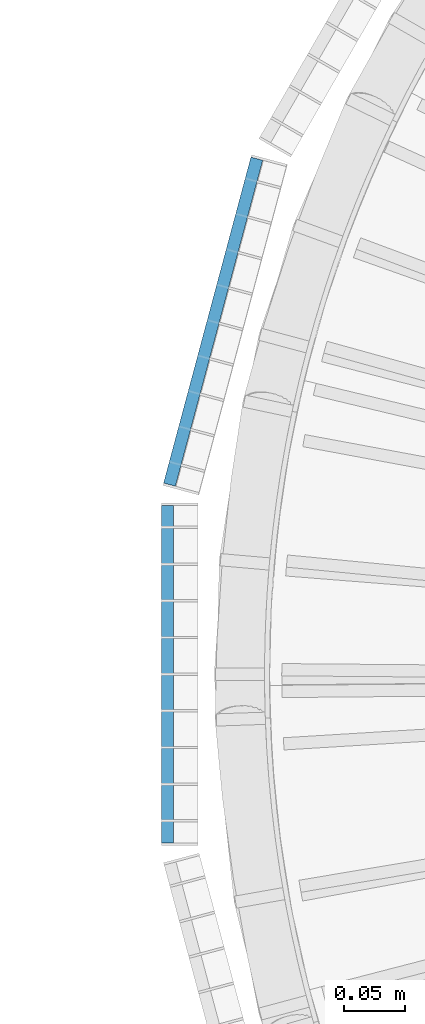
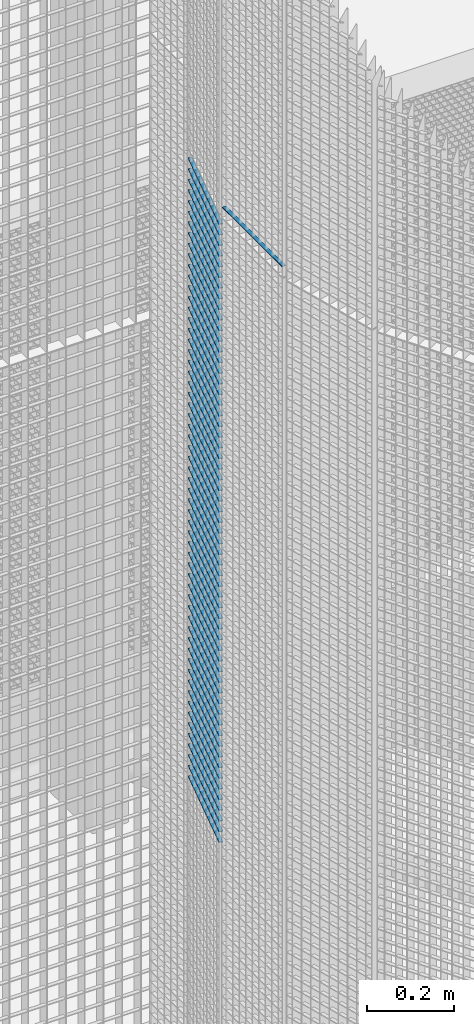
# One storey, part 190 of 1148: 60 beams, 2 elements without a shape of their own.
"""IFC2X3 building model written with IfcOpenShell, lengths in millimetres."""

from ifc_helpers import new_model, si_unit, frame, origin_with_axes, origin_2d_with_axis, place, context, subcontext, project, spatial, rectangle, extrude, material, type_object, element, aggregate, save


model = new_model("IFC2X3")

# Units and contexts
model_context = context("Model", 3, precision=1e-05, world=origin_with_axes())
body_context = subcontext(model_context, "Body", "Model", "MODEL_VIEW")
ifc_project = project(units=[si_unit("LENGTHUNIT", "METRE", prefix="MILLI"), si_unit("AREAUNIT", "SQUARE_METRE"), si_unit("VOLUMEUNIT", "CUBIC_METRE"), si_unit("MASSUNIT", "GRAM", prefix="KILO"), si_unit("TIMEUNIT", "SECOND"), si_unit("PLANEANGLEUNIT", "RADIAN"), si_unit("SOLIDANGLEUNIT", "STERADIAN"), si_unit("THERMODYNAMICTEMPERATUREUNIT", "DEGREE_CELSIUS"), si_unit("LUMINOUSINTENSITYUNIT", "LUMEN")], contexts=[model_context])

# Site, building, storey
site_placement = place(None, origin_with_axes())
site = spatial("IfcSite", under=ifc_project, at=site_placement, Name="Undefined", CompositionType="ELEMENT")
building_placement = place(site_placement, origin_with_axes())
building = spatial("IfcBuilding", under=site, at=building_placement, Name="Undefined", CompositionType="ELEMENT")
storey_placement = place(building_placement, origin_with_axes())
storey = spatial("IfcBuildingStorey", under=building, at=storey_placement, Name="Undefined", CompositionType="ELEMENT", Elevation=0.0)

# Assembly, beam
assembly_1_placement = place(storey_placement, origin_with_axes())
assembly_1 = element("IfcElementAssembly", 1, at=assembly_1_placement, inside=storey, Name="BORDURE", AssemblyPlace="NOTDEFINED", PredefinedType="NOTDEFINED")
ifc_material = material(Name="STEEL/S235JR")
beam_type = type_object("IfcBeamType", Name="PL2*10", PredefinedType="NOTDEFINED")
beam_1_placement = place(assembly_1_placement, frame((-1113.47999999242, 137.99600337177, 12030.0), z_axis=(-1.0, 0.0, 0.0), x_axis=(0.0, -1.0, 0.0)))
beam_1 = element("IfcBeam", 2, at=beam_1_placement, type_object=beam_type, material=ifc_material, Name="ENTRETOISE", context=body_context, shape_type="SweptSolid", body=[
    extrude(rectangle(XDim=2.0, YDim=10.0, at=origin_2d_with_axis()), frame((275.999999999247, 9.09494701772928e-13, 1.53210777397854e-14), z_axis=(-1.0, 0.0, 0.0), x_axis=(0.0, -1.0, 0.0)), (0.0, 0.0, 1.0), 276.0),
])
aggregate(assembly_1, [beam_1])

# Assembly, beams
assembly_2_placement = place(storey_placement, origin_with_axes())
assembly_2 = element("IfcElementAssembly", 3, at=assembly_2_placement, inside=storey, Name="BORDURE", AssemblyPlace="NOTDEFINED", PredefinedType="NOTDEFINED")
beam_2_placement = place(assembly_2_placement, frame((-1040.30888419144, 421.61803829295, 11970.0), z_axis=(-0.965925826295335, 0.258819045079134, 0.0), x_axis=(-0.258819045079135, -0.965925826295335, 0.0)))
beam_2 = element("IfcBeam", 4, at=beam_2_placement, type_object=beam_type, material=ifc_material, Name="ENTRETOISE", context=body_context, shape_type="SweptSolid", body=[
    extrude(rectangle(XDim=2.0, YDim=10.0, at=origin_2d_with_axis()), frame((275.999999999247, 9.09494701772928e-13, 1.53210777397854e-14), z_axis=(-1.0, 0.0, 0.0), x_axis=(0.0, -1.0, 0.0)), (0.0, 0.0, 1.0), 276.0),
])
beam_3_placement = place(assembly_2_placement, frame((-1040.30888419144, 421.61803829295, 11940.0), z_axis=(-0.965925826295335, 0.258819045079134, 0.0), x_axis=(-0.258819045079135, -0.965925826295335, 0.0)))
beam_3 = element("IfcBeam", 5, at=beam_3_placement, type_object=beam_type, material=ifc_material, Name="ENTRETOISE", context=body_context, shape_type="SweptSolid", body=[
    extrude(rectangle(XDim=2.0, YDim=10.0, at=origin_2d_with_axis()), frame((275.999999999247, 9.09494701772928e-13, 1.53210777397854e-14), z_axis=(-1.0, 0.0, 0.0), x_axis=(0.0, -1.0, 0.0)), (0.0, 0.0, 1.0), 276.0),
])
beam_4_placement = place(assembly_2_placement, frame((-1040.30888419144, 421.61803829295, 11910.0), z_axis=(-0.965925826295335, 0.258819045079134, 0.0), x_axis=(-0.258819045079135, -0.965925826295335, 0.0)))
beam_4 = element("IfcBeam", 6, at=beam_4_placement, type_object=beam_type, material=ifc_material, Name="ENTRETOISE", context=body_context, shape_type="SweptSolid", body=[
    extrude(rectangle(XDim=2.0, YDim=10.0, at=origin_2d_with_axis()), frame((275.999999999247, 9.09494701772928e-13, 1.53210777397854e-14), z_axis=(-1.0, 0.0, 0.0), x_axis=(0.0, -1.0, 0.0)), (0.0, 0.0, 1.0), 276.0),
])
beam_5_placement = place(assembly_2_placement, frame((-1040.30888419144, 421.61803829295, 11880.0), z_axis=(-0.965925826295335, 0.258819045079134, 0.0), x_axis=(-0.258819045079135, -0.965925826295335, 0.0)))
beam_5 = element("IfcBeam", 7, at=beam_5_placement, type_object=beam_type, material=ifc_material, Name="ENTRETOISE", context=body_context, shape_type="SweptSolid", body=[
    extrude(rectangle(XDim=2.0, YDim=10.0, at=origin_2d_with_axis()), frame((275.999999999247, 9.09494701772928e-13, 1.53210777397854e-14), z_axis=(-1.0, 0.0, 0.0), x_axis=(0.0, -1.0, 0.0)), (0.0, 0.0, 1.0), 276.0),
])
beam_6_placement = place(assembly_2_placement, frame((-1040.30888419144, 421.61803829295, 11850.0), z_axis=(-0.965925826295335, 0.258819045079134, 0.0), x_axis=(-0.258819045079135, -0.965925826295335, 0.0)))
beam_6 = element("IfcBeam", 8, at=beam_6_placement, type_object=beam_type, material=ifc_material, Name="ENTRETOISE", context=body_context, shape_type="SweptSolid", body=[
    extrude(rectangle(XDim=2.0, YDim=10.0, at=origin_2d_with_axis()), frame((275.999999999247, 9.09494701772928e-13, 1.53210777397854e-14), z_axis=(-1.0, 0.0, 0.0), x_axis=(0.0, -1.0, 0.0)), (0.0, 0.0, 1.0), 276.0),
])
beam_7_placement = place(assembly_2_placement, frame((-1040.30888419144, 421.61803829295, 11820.0), z_axis=(-0.965925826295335, 0.258819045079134, 0.0), x_axis=(-0.258819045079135, -0.965925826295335, 0.0)))
beam_7 = element("IfcBeam", 9, at=beam_7_placement, type_object=beam_type, material=ifc_material, Name="ENTRETOISE", context=body_context, shape_type="SweptSolid", body=[
    extrude(rectangle(XDim=2.0, YDim=10.0, at=origin_2d_with_axis()), frame((275.999999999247, 9.09494701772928e-13, 1.53210777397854e-14), z_axis=(-1.0, 0.0, 0.0), x_axis=(0.0, -1.0, 0.0)), (0.0, 0.0, 1.0), 276.0),
])
beam_8_placement = place(assembly_2_placement, frame((-1040.30888419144, 421.61803829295, 11790.0), z_axis=(-0.965925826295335, 0.258819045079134, 0.0), x_axis=(-0.258819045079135, -0.965925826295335, 0.0)))
beam_8 = element("IfcBeam", 10, at=beam_8_placement, type_object=beam_type, material=ifc_material, Name="ENTRETOISE", context=body_context, shape_type="SweptSolid", body=[
    extrude(rectangle(XDim=2.0, YDim=10.0, at=origin_2d_with_axis()), frame((275.999999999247, 9.09494701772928e-13, 1.53210777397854e-14), z_axis=(-1.0, 0.0, 0.0), x_axis=(0.0, -1.0, 0.0)), (0.0, 0.0, 1.0), 276.0),
])
beam_9_placement = place(assembly_2_placement, frame((-1040.30888419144, 421.61803829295, 11760.0), z_axis=(-0.965925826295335, 0.258819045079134, 0.0), x_axis=(-0.258819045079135, -0.965925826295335, 0.0)))
beam_9 = element("IfcBeam", 11, at=beam_9_placement, type_object=beam_type, material=ifc_material, Name="ENTRETOISE", context=body_context, shape_type="SweptSolid", body=[
    extrude(rectangle(XDim=2.0, YDim=10.0, at=origin_2d_with_axis()), frame((275.999999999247, 9.09494701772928e-13, 1.53210777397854e-14), z_axis=(-1.0, 0.0, 0.0), x_axis=(0.0, -1.0, 0.0)), (0.0, 0.0, 1.0), 276.0),
])
beam_10_placement = place(assembly_2_placement, frame((-1040.30888419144, 421.61803829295, 11730.0), z_axis=(-0.965925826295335, 0.258819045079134, 0.0), x_axis=(-0.258819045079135, -0.965925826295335, 0.0)))
beam_10 = element("IfcBeam", 12, at=beam_10_placement, type_object=beam_type, material=ifc_material, Name="ENTRETOISE", context=body_context, shape_type="SweptSolid", body=[
    extrude(rectangle(XDim=2.0, YDim=10.0, at=origin_2d_with_axis()), frame((275.999999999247, 9.09494701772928e-13, 1.53210777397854e-14), z_axis=(-1.0, 0.0, 0.0), x_axis=(0.0, -1.0, 0.0)), (0.0, 0.0, 1.0), 276.0),
])
beam_11_placement = place(assembly_2_placement, frame((-1040.30888419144, 421.618038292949, 11700.0), z_axis=(-0.965925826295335, 0.258819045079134, 0.0), x_axis=(-0.258819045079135, -0.965925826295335, 0.0)))
beam_11 = element("IfcBeam", 13, at=beam_11_placement, type_object=beam_type, material=ifc_material, Name="ENTRETOISE", context=body_context, shape_type="SweptSolid", body=[
    extrude(rectangle(XDim=2.0, YDim=10.0, at=origin_2d_with_axis()), frame((275.999999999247, 9.09494701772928e-13, 1.53210777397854e-14), z_axis=(-1.0, 0.0, 0.0), x_axis=(0.0, -1.0, 0.0)), (0.0, 0.0, 1.0), 276.0),
])
beam_12_placement = place(assembly_2_placement, frame((-1040.30888419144, 421.618038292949, 11670.0), z_axis=(-0.965925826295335, 0.258819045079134, 0.0), x_axis=(-0.258819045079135, -0.965925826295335, 0.0)))
beam_12 = element("IfcBeam", 14, at=beam_12_placement, type_object=beam_type, material=ifc_material, Name="ENTRETOISE", context=body_context, shape_type="SweptSolid", body=[
    extrude(rectangle(XDim=2.0, YDim=10.0, at=origin_2d_with_axis()), frame((275.999999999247, 9.09494701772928e-13, 1.53210777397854e-14), z_axis=(-1.0, 0.0, 0.0), x_axis=(0.0, -1.0, 0.0)), (0.0, 0.0, 1.0), 276.0),
])
beam_13_placement = place(assembly_2_placement, frame((-1040.30888419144, 421.618038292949, 11640.0), z_axis=(-0.965925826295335, 0.258819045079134, 0.0), x_axis=(-0.258819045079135, -0.965925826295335, 0.0)))
beam_13 = element("IfcBeam", 15, at=beam_13_placement, type_object=beam_type, material=ifc_material, Name="ENTRETOISE", context=body_context, shape_type="SweptSolid", body=[
    extrude(rectangle(XDim=2.0, YDim=10.0, at=origin_2d_with_axis()), frame((275.999999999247, 9.09494701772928e-13, 1.53210777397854e-14), z_axis=(-1.0, 0.0, 0.0), x_axis=(0.0, -1.0, 0.0)), (0.0, 0.0, 1.0), 276.0),
])
beam_14_placement = place(assembly_2_placement, frame((-1040.30888419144, 421.618038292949, 11610.0), z_axis=(-0.965925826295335, 0.258819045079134, 0.0), x_axis=(-0.258819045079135, -0.965925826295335, 0.0)))
beam_14 = element("IfcBeam", 16, at=beam_14_placement, type_object=beam_type, material=ifc_material, Name="ENTRETOISE", context=body_context, shape_type="SweptSolid", body=[
    extrude(rectangle(XDim=2.0, YDim=10.0, at=origin_2d_with_axis()), frame((275.999999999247, 9.09494701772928e-13, 1.53210777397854e-14), z_axis=(-1.0, 0.0, 0.0), x_axis=(0.0, -1.0, 0.0)), (0.0, 0.0, 1.0), 276.0),
])
beam_15_placement = place(assembly_2_placement, frame((-1040.30888419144, 421.618038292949, 11580.0), z_axis=(-0.965925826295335, 0.258819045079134, 0.0), x_axis=(-0.258819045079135, -0.965925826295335, 0.0)))
beam_15 = element("IfcBeam", 17, at=beam_15_placement, type_object=beam_type, material=ifc_material, Name="ENTRETOISE", context=body_context, shape_type="SweptSolid", body=[
    extrude(rectangle(XDim=2.0, YDim=10.0, at=origin_2d_with_axis()), frame((275.999999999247, 9.09494701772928e-13, 1.53210777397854e-14), z_axis=(-1.0, 0.0, 0.0), x_axis=(0.0, -1.0, 0.0)), (0.0, 0.0, 1.0), 276.0),
])
beam_16_placement = place(assembly_2_placement, frame((-1040.30888419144, 421.618038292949, 11550.0), z_axis=(-0.965925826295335, 0.258819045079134, 0.0), x_axis=(-0.258819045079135, -0.965925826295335, 0.0)))
beam_16 = element("IfcBeam", 18, at=beam_16_placement, type_object=beam_type, material=ifc_material, Name="ENTRETOISE", context=body_context, shape_type="SweptSolid", body=[
    extrude(rectangle(XDim=2.0, YDim=10.0, at=origin_2d_with_axis()), frame((275.999999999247, 9.09494701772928e-13, 1.53210777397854e-14), z_axis=(-1.0, 0.0, 0.0), x_axis=(0.0, -1.0, 0.0)), (0.0, 0.0, 1.0), 276.0),
])
beam_17_placement = place(assembly_2_placement, frame((-1040.30888419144, 421.618038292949, 11520.0), z_axis=(-0.965925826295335, 0.258819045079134, 0.0), x_axis=(-0.258819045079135, -0.965925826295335, 0.0)))
beam_17 = element("IfcBeam", 19, at=beam_17_placement, type_object=beam_type, material=ifc_material, Name="ENTRETOISE", context=body_context, shape_type="SweptSolid", body=[
    extrude(rectangle(XDim=2.0, YDim=10.0, at=origin_2d_with_axis()), frame((275.999999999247, 9.09494701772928e-13, 1.53210777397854e-14), z_axis=(-1.0, 0.0, 0.0), x_axis=(0.0, -1.0, 0.0)), (0.0, 0.0, 1.0), 276.0),
])
beam_18_placement = place(assembly_2_placement, frame((-1040.30888419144, 421.618038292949, 11490.0), z_axis=(-0.965925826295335, 0.258819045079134, 0.0), x_axis=(-0.258819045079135, -0.965925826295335, 0.0)))
beam_18 = element("IfcBeam", 20, at=beam_18_placement, type_object=beam_type, material=ifc_material, Name="ENTRETOISE", context=body_context, shape_type="SweptSolid", body=[
    extrude(rectangle(XDim=2.0, YDim=10.0, at=origin_2d_with_axis()), frame((275.999999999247, 9.09494701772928e-13, 1.53210777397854e-14), z_axis=(-1.0, 0.0, 0.0), x_axis=(0.0, -1.0, 0.0)), (0.0, 0.0, 1.0), 276.0),
])
beam_19_placement = place(assembly_2_placement, frame((-1040.30888419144, 421.618038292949, 11460.0), z_axis=(-0.965925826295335, 0.258819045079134, 0.0), x_axis=(-0.258819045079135, -0.965925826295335, 0.0)))
beam_19 = element("IfcBeam", 21, at=beam_19_placement, type_object=beam_type, material=ifc_material, Name="ENTRETOISE", context=body_context, shape_type="SweptSolid", body=[
    extrude(rectangle(XDim=2.0, YDim=10.0, at=origin_2d_with_axis()), frame((275.999999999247, 9.09494701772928e-13, 1.53210777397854e-14), z_axis=(-1.0, 0.0, 0.0), x_axis=(0.0, -1.0, 0.0)), (0.0, 0.0, 1.0), 276.0),
])
beam_20_placement = place(assembly_2_placement, frame((-1040.30888419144, 421.618038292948, 11430.0), z_axis=(-0.965925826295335, 0.258819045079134, 0.0), x_axis=(-0.258819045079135, -0.965925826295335, 0.0)))
beam_20 = element("IfcBeam", 22, at=beam_20_placement, type_object=beam_type, material=ifc_material, Name="ENTRETOISE", context=body_context, shape_type="SweptSolid", body=[
    extrude(rectangle(XDim=2.0, YDim=10.0, at=origin_2d_with_axis()), frame((275.999999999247, 9.09494701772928e-13, 1.53210777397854e-14), z_axis=(-1.0, 0.0, 0.0), x_axis=(0.0, -1.0, 0.0)), (0.0, 0.0, 1.0), 276.0),
])
beam_21_placement = place(assembly_2_placement, frame((-1040.30888419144, 421.618038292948, 11400.0), z_axis=(-0.965925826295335, 0.258819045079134, 0.0), x_axis=(-0.258819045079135, -0.965925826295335, 0.0)))
beam_21 = element("IfcBeam", 23, at=beam_21_placement, type_object=beam_type, material=ifc_material, Name="ENTRETOISE", context=body_context, shape_type="SweptSolid", body=[
    extrude(rectangle(XDim=2.0, YDim=10.0, at=origin_2d_with_axis()), frame((275.999999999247, 9.09494701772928e-13, 1.53210777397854e-14), z_axis=(-1.0, 0.0, 0.0), x_axis=(0.0, -1.0, 0.0)), (0.0, 0.0, 1.0), 276.0),
])
beam_22_placement = place(assembly_2_placement, frame((-1040.30888419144, 421.618038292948, 11370.0), z_axis=(-0.965925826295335, 0.258819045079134, 0.0), x_axis=(-0.258819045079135, -0.965925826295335, 0.0)))
beam_22 = element("IfcBeam", 24, at=beam_22_placement, type_object=beam_type, material=ifc_material, Name="ENTRETOISE", context=body_context, shape_type="SweptSolid", body=[
    extrude(rectangle(XDim=2.0, YDim=10.0, at=origin_2d_with_axis()), frame((275.999999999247, 9.09494701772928e-13, 1.53210777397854e-14), z_axis=(-1.0, 0.0, 0.0), x_axis=(0.0, -1.0, 0.0)), (0.0, 0.0, 1.0), 276.0),
])
beam_23_placement = place(assembly_2_placement, frame((-1040.30888419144, 421.618038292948, 11340.0), z_axis=(-0.965925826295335, 0.258819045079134, 0.0), x_axis=(-0.258819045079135, -0.965925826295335, 0.0)))
beam_23 = element("IfcBeam", 25, at=beam_23_placement, type_object=beam_type, material=ifc_material, Name="ENTRETOISE", context=body_context, shape_type="SweptSolid", body=[
    extrude(rectangle(XDim=2.0, YDim=10.0, at=origin_2d_with_axis()), frame((275.999999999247, 9.09494701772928e-13, 1.53210777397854e-14), z_axis=(-1.0, 0.0, 0.0), x_axis=(0.0, -1.0, 0.0)), (0.0, 0.0, 1.0), 276.0),
])
beam_24_placement = place(assembly_2_placement, frame((-1040.30888419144, 421.618038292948, 11310.0), z_axis=(-0.965925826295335, 0.258819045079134, 0.0), x_axis=(-0.258819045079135, -0.965925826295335, 0.0)))
beam_24 = element("IfcBeam", 26, at=beam_24_placement, type_object=beam_type, material=ifc_material, Name="ENTRETOISE", context=body_context, shape_type="SweptSolid", body=[
    extrude(rectangle(XDim=2.0, YDim=10.0, at=origin_2d_with_axis()), frame((275.999999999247, 9.09494701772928e-13, 1.53210777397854e-14), z_axis=(-1.0, 0.0, 0.0), x_axis=(0.0, -1.0, 0.0)), (0.0, 0.0, 1.0), 276.0),
])
beam_25_placement = place(assembly_2_placement, frame((-1040.30888419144, 421.618038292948, 11280.0), z_axis=(-0.965925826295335, 0.258819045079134, 0.0), x_axis=(-0.258819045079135, -0.965925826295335, 0.0)))
beam_25 = element("IfcBeam", 27, at=beam_25_placement, type_object=beam_type, material=ifc_material, Name="ENTRETOISE", context=body_context, shape_type="SweptSolid", body=[
    extrude(rectangle(XDim=2.0, YDim=10.0, at=origin_2d_with_axis()), frame((275.999999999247, 9.09494701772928e-13, 1.53210777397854e-14), z_axis=(-1.0, 0.0, 0.0), x_axis=(0.0, -1.0, 0.0)), (0.0, 0.0, 1.0), 276.0),
])
beam_26_placement = place(assembly_2_placement, frame((-1040.30888419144, 421.618038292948, 11250.0), z_axis=(-0.965925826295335, 0.258819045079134, 0.0), x_axis=(-0.258819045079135, -0.965925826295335, 0.0)))
beam_26 = element("IfcBeam", 28, at=beam_26_placement, type_object=beam_type, material=ifc_material, Name="ENTRETOISE", context=body_context, shape_type="SweptSolid", body=[
    extrude(rectangle(XDim=2.0, YDim=10.0, at=origin_2d_with_axis()), frame((275.999999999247, 9.09494701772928e-13, 1.53210777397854e-14), z_axis=(-1.0, 0.0, 0.0), x_axis=(0.0, -1.0, 0.0)), (0.0, 0.0, 1.0), 276.0),
])
beam_27_placement = place(assembly_2_placement, frame((-1040.30888419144, 421.618038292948, 11220.0), z_axis=(-0.965925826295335, 0.258819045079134, 0.0), x_axis=(-0.258819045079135, -0.965925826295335, 0.0)))
beam_27 = element("IfcBeam", 29, at=beam_27_placement, type_object=beam_type, material=ifc_material, Name="ENTRETOISE", context=body_context, shape_type="SweptSolid", body=[
    extrude(rectangle(XDim=2.0, YDim=10.0, at=origin_2d_with_axis()), frame((275.999999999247, 9.09494701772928e-13, 1.53210777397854e-14), z_axis=(-1.0, 0.0, 0.0), x_axis=(0.0, -1.0, 0.0)), (0.0, 0.0, 1.0), 276.0),
])
beam_28_placement = place(assembly_2_placement, frame((-1040.30888419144, 421.618038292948, 11190.0), z_axis=(-0.965925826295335, 0.258819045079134, 0.0), x_axis=(-0.258819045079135, -0.965925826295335, 0.0)))
beam_28 = element("IfcBeam", 30, at=beam_28_placement, type_object=beam_type, material=ifc_material, Name="ENTRETOISE", context=body_context, shape_type="SweptSolid", body=[
    extrude(rectangle(XDim=2.0, YDim=10.0, at=origin_2d_with_axis()), frame((275.999999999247, 9.09494701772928e-13, 1.53210777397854e-14), z_axis=(-1.0, 0.0, 0.0), x_axis=(0.0, -1.0, 0.0)), (0.0, 0.0, 1.0), 276.0),
])
beam_29_placement = place(assembly_2_placement, frame((-1040.30888419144, 421.618038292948, 11160.0), z_axis=(-0.965925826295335, 0.258819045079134, 0.0), x_axis=(-0.258819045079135, -0.965925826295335, 0.0)))
beam_29 = element("IfcBeam", 31, at=beam_29_placement, type_object=beam_type, material=ifc_material, Name="ENTRETOISE", context=body_context, shape_type="SweptSolid", body=[
    extrude(rectangle(XDim=2.0, YDim=10.0, at=origin_2d_with_axis()), frame((275.999999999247, 9.09494701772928e-13, 1.53210777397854e-14), z_axis=(-1.0, 0.0, 0.0), x_axis=(0.0, -1.0, 0.0)), (0.0, 0.0, 1.0), 276.0),
])
beam_30_placement = place(assembly_2_placement, frame((-1040.30888419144, 421.618038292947, 11130.0), z_axis=(-0.965925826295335, 0.258819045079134, 0.0), x_axis=(-0.258819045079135, -0.965925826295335, 0.0)))
beam_30 = element("IfcBeam", 32, at=beam_30_placement, type_object=beam_type, material=ifc_material, Name="ENTRETOISE", context=body_context, shape_type="SweptSolid", body=[
    extrude(rectangle(XDim=2.0, YDim=10.0, at=origin_2d_with_axis()), frame((275.999999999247, 9.09494701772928e-13, 1.53210777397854e-14), z_axis=(-1.0, 0.0, 0.0), x_axis=(0.0, -1.0, 0.0)), (0.0, 0.0, 1.0), 276.0),
])
beam_31_placement = place(assembly_2_placement, frame((-1040.30888419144, 421.618038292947, 11100.0), z_axis=(-0.965925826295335, 0.258819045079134, 0.0), x_axis=(-0.258819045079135, -0.965925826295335, 0.0)))
beam_31 = element("IfcBeam", 33, at=beam_31_placement, type_object=beam_type, material=ifc_material, Name="ENTRETOISE", context=body_context, shape_type="SweptSolid", body=[
    extrude(rectangle(XDim=2.0, YDim=10.0, at=origin_2d_with_axis()), frame((275.999999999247, 9.09494701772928e-13, 1.53210777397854e-14), z_axis=(-1.0, 0.0, 0.0), x_axis=(0.0, -1.0, 0.0)), (0.0, 0.0, 1.0), 276.0),
])
beam_32_placement = place(assembly_2_placement, frame((-1040.30888419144, 421.618038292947, 11070.0), z_axis=(-0.965925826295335, 0.258819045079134, 0.0), x_axis=(-0.258819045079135, -0.965925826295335, 0.0)))
beam_32 = element("IfcBeam", 34, at=beam_32_placement, type_object=beam_type, material=ifc_material, Name="ENTRETOISE", context=body_context, shape_type="SweptSolid", body=[
    extrude(rectangle(XDim=2.0, YDim=10.0, at=origin_2d_with_axis()), frame((275.999999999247, 9.09494701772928e-13, 1.53210777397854e-14), z_axis=(-1.0, 0.0, 0.0), x_axis=(0.0, -1.0, 0.0)), (0.0, 0.0, 1.0), 276.0),
])
beam_33_placement = place(assembly_2_placement, frame((-1040.30888419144, 421.618038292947, 11040.0), z_axis=(-0.965925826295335, 0.258819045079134, 0.0), x_axis=(-0.258819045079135, -0.965925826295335, 0.0)))
beam_33 = element("IfcBeam", 35, at=beam_33_placement, type_object=beam_type, material=ifc_material, Name="ENTRETOISE", context=body_context, shape_type="SweptSolid", body=[
    extrude(rectangle(XDim=2.0, YDim=10.0, at=origin_2d_with_axis()), frame((275.999999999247, 9.09494701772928e-13, 1.53210777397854e-14), z_axis=(-1.0, 0.0, 0.0), x_axis=(0.0, -1.0, 0.0)), (0.0, 0.0, 1.0), 276.0),
])
beam_34_placement = place(assembly_2_placement, frame((-1040.30888419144, 421.618038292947, 11010.0), z_axis=(-0.965925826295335, 0.258819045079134, 0.0), x_axis=(-0.258819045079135, -0.965925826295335, 0.0)))
beam_34 = element("IfcBeam", 36, at=beam_34_placement, type_object=beam_type, material=ifc_material, Name="ENTRETOISE", context=body_context, shape_type="SweptSolid", body=[
    extrude(rectangle(XDim=2.0, YDim=10.0, at=origin_2d_with_axis()), frame((275.999999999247, 9.09494701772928e-13, 1.53210777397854e-14), z_axis=(-1.0, 0.0, 0.0), x_axis=(0.0, -1.0, 0.0)), (0.0, 0.0, 1.0), 276.0),
])
beam_35_placement = place(assembly_2_placement, frame((-1040.30888419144, 421.618038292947, 10980.0), z_axis=(-0.965925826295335, 0.258819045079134, 0.0), x_axis=(-0.258819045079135, -0.965925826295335, 0.0)))
beam_35 = element("IfcBeam", 37, at=beam_35_placement, type_object=beam_type, material=ifc_material, Name="ENTRETOISE", context=body_context, shape_type="SweptSolid", body=[
    extrude(rectangle(XDim=2.0, YDim=10.0, at=origin_2d_with_axis()), frame((275.999999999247, 9.09494701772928e-13, 1.53210777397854e-14), z_axis=(-1.0, 0.0, 0.0), x_axis=(0.0, -1.0, 0.0)), (0.0, 0.0, 1.0), 276.0),
])
beam_36_placement = place(assembly_2_placement, frame((-1040.30888419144, 421.618038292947, 10950.0), z_axis=(-0.965925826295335, 0.258819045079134, 0.0), x_axis=(-0.258819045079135, -0.965925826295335, 0.0)))
beam_36 = element("IfcBeam", 38, at=beam_36_placement, type_object=beam_type, material=ifc_material, Name="ENTRETOISE", context=body_context, shape_type="SweptSolid", body=[
    extrude(rectangle(XDim=2.0, YDim=10.0, at=origin_2d_with_axis()), frame((275.999999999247, 9.09494701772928e-13, 1.53210777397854e-14), z_axis=(-1.0, 0.0, 0.0), x_axis=(0.0, -1.0, 0.0)), (0.0, 0.0, 1.0), 276.0),
])
beam_37_placement = place(assembly_2_placement, frame((-1040.30888419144, 421.618038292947, 10920.0), z_axis=(-0.965925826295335, 0.258819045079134, 0.0), x_axis=(-0.258819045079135, -0.965925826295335, 0.0)))
beam_37 = element("IfcBeam", 39, at=beam_37_placement, type_object=beam_type, material=ifc_material, Name="ENTRETOISE", context=body_context, shape_type="SweptSolid", body=[
    extrude(rectangle(XDim=2.0, YDim=10.0, at=origin_2d_with_axis()), frame((275.999999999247, 9.09494701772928e-13, 1.53210777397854e-14), z_axis=(-1.0, 0.0, 0.0), x_axis=(0.0, -1.0, 0.0)), (0.0, 0.0, 1.0), 276.0),
])
beam_38_placement = place(assembly_2_placement, frame((-1040.30888419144, 421.618038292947, 10890.0), z_axis=(-0.965925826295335, 0.258819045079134, 0.0), x_axis=(-0.258819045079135, -0.965925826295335, 0.0)))
beam_38 = element("IfcBeam", 40, at=beam_38_placement, type_object=beam_type, material=ifc_material, Name="ENTRETOISE", context=body_context, shape_type="SweptSolid", body=[
    extrude(rectangle(XDim=2.0, YDim=10.0, at=origin_2d_with_axis()), frame((275.999999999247, 9.09494701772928e-13, 1.53210777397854e-14), z_axis=(-1.0, 0.0, 0.0), x_axis=(0.0, -1.0, 0.0)), (0.0, 0.0, 1.0), 276.0),
])
beam_39_placement = place(assembly_2_placement, frame((-1040.30888419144, 421.618038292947, 10860.0), z_axis=(-0.965925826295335, 0.258819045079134, 0.0), x_axis=(-0.258819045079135, -0.965925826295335, 0.0)))
beam_39 = element("IfcBeam", 41, at=beam_39_placement, type_object=beam_type, material=ifc_material, Name="ENTRETOISE", context=body_context, shape_type="SweptSolid", body=[
    extrude(rectangle(XDim=2.0, YDim=10.0, at=origin_2d_with_axis()), frame((275.999999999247, 9.09494701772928e-13, 1.53210777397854e-14), z_axis=(-1.0, 0.0, 0.0), x_axis=(0.0, -1.0, 0.0)), (0.0, 0.0, 1.0), 276.0),
])
beam_40_placement = place(assembly_2_placement, frame((-1040.30888419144, 421.618038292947, 10830.0), z_axis=(-0.965925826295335, 0.258819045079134, 0.0), x_axis=(-0.258819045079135, -0.965925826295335, 0.0)))
beam_40 = element("IfcBeam", 42, at=beam_40_placement, type_object=beam_type, material=ifc_material, Name="ENTRETOISE", context=body_context, shape_type="SweptSolid", body=[
    extrude(rectangle(XDim=2.0, YDim=10.0, at=origin_2d_with_axis()), frame((275.999999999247, 9.09494701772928e-13, 1.53210777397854e-14), z_axis=(-1.0, 0.0, 0.0), x_axis=(0.0, -1.0, 0.0)), (0.0, 0.0, 1.0), 276.0),
])
beam_41_placement = place(assembly_2_placement, frame((-1040.30888419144, 421.618038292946, 10800.0), z_axis=(-0.965925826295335, 0.258819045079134, 0.0), x_axis=(-0.258819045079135, -0.965925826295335, 0.0)))
beam_41 = element("IfcBeam", 43, at=beam_41_placement, type_object=beam_type, material=ifc_material, Name="ENTRETOISE", context=body_context, shape_type="SweptSolid", body=[
    extrude(rectangle(XDim=2.0, YDim=10.0, at=origin_2d_with_axis()), frame((275.999999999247, 9.09494701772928e-13, 1.53210777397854e-14), z_axis=(-1.0, 0.0, 0.0), x_axis=(0.0, -1.0, 0.0)), (0.0, 0.0, 1.0), 276.0),
])
beam_42_placement = place(assembly_2_placement, frame((-1040.30888419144, 421.618038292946, 10770.0), z_axis=(-0.965925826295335, 0.258819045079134, 0.0), x_axis=(-0.258819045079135, -0.965925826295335, 0.0)))
beam_42 = element("IfcBeam", 44, at=beam_42_placement, type_object=beam_type, material=ifc_material, Name="ENTRETOISE", context=body_context, shape_type="SweptSolid", body=[
    extrude(rectangle(XDim=2.0, YDim=10.0, at=origin_2d_with_axis()), frame((275.999999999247, 9.09494701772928e-13, 1.53210777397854e-14), z_axis=(-1.0, 0.0, 0.0), x_axis=(0.0, -1.0, 0.0)), (0.0, 0.0, 1.0), 276.0),
])
beam_43_placement = place(assembly_2_placement, frame((-1040.30888419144, 421.618038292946, 10740.0), z_axis=(-0.965925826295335, 0.258819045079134, 0.0), x_axis=(-0.258819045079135, -0.965925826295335, 0.0)))
beam_43 = element("IfcBeam", 45, at=beam_43_placement, type_object=beam_type, material=ifc_material, Name="ENTRETOISE", context=body_context, shape_type="SweptSolid", body=[
    extrude(rectangle(XDim=2.0, YDim=10.0, at=origin_2d_with_axis()), frame((275.999999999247, 9.09494701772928e-13, 1.53210777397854e-14), z_axis=(-1.0, 0.0, 0.0), x_axis=(0.0, -1.0, 0.0)), (0.0, 0.0, 1.0), 276.0),
])
beam_44_placement = place(assembly_2_placement, frame((-1040.30888419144, 421.618038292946, 10710.0), z_axis=(-0.965925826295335, 0.258819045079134, 0.0), x_axis=(-0.258819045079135, -0.965925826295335, 0.0)))
beam_44 = element("IfcBeam", 46, at=beam_44_placement, type_object=beam_type, material=ifc_material, Name="ENTRETOISE", context=body_context, shape_type="SweptSolid", body=[
    extrude(rectangle(XDim=2.0, YDim=10.0, at=origin_2d_with_axis()), frame((275.999999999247, 9.09494701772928e-13, 1.53210777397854e-14), z_axis=(-1.0, 0.0, 0.0), x_axis=(0.0, -1.0, 0.0)), (0.0, 0.0, 1.0), 276.0),
])
beam_45_placement = place(assembly_2_placement, frame((-1040.30888419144, 421.618038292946, 10680.0), z_axis=(-0.965925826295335, 0.258819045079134, 0.0), x_axis=(-0.258819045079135, -0.965925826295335, 0.0)))
beam_45 = element("IfcBeam", 47, at=beam_45_placement, type_object=beam_type, material=ifc_material, Name="ENTRETOISE", context=body_context, shape_type="SweptSolid", body=[
    extrude(rectangle(XDim=2.0, YDim=10.0, at=origin_2d_with_axis()), frame((275.999999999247, 9.09494701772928e-13, 1.53210777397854e-14), z_axis=(-1.0, 0.0, 0.0), x_axis=(0.0, -1.0, 0.0)), (0.0, 0.0, 1.0), 276.0),
])
beam_46_placement = place(assembly_2_placement, frame((-1040.30888419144, 421.618038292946, 10650.0), z_axis=(-0.965925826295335, 0.258819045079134, 0.0), x_axis=(-0.258819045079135, -0.965925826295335, 0.0)))
beam_46 = element("IfcBeam", 48, at=beam_46_placement, type_object=beam_type, material=ifc_material, Name="ENTRETOISE", context=body_context, shape_type="SweptSolid", body=[
    extrude(rectangle(XDim=2.0, YDim=10.0, at=origin_2d_with_axis()), frame((275.999999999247, 9.09494701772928e-13, 1.53210777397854e-14), z_axis=(-1.0, 0.0, 0.0), x_axis=(0.0, -1.0, 0.0)), (0.0, 0.0, 1.0), 276.0),
])
beam_47_placement = place(assembly_2_placement, frame((-1040.30888419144, 421.618038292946, 10620.0), z_axis=(-0.965925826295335, 0.258819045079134, 0.0), x_axis=(-0.258819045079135, -0.965925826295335, 0.0)))
beam_47 = element("IfcBeam", 49, at=beam_47_placement, type_object=beam_type, material=ifc_material, Name="ENTRETOISE", context=body_context, shape_type="SweptSolid", body=[
    extrude(rectangle(XDim=2.0, YDim=10.0, at=origin_2d_with_axis()), frame((275.999999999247, 9.09494701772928e-13, 1.53210777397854e-14), z_axis=(-1.0, 0.0, 0.0), x_axis=(0.0, -1.0, 0.0)), (0.0, 0.0, 1.0), 276.0),
])
beam_48_placement = place(assembly_2_placement, frame((-1040.30888419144, 421.618038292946, 10590.0), z_axis=(-0.965925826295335, 0.258819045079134, 0.0), x_axis=(-0.258819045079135, -0.965925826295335, 0.0)))
beam_48 = element("IfcBeam", 50, at=beam_48_placement, type_object=beam_type, material=ifc_material, Name="ENTRETOISE", context=body_context, shape_type="SweptSolid", body=[
    extrude(rectangle(XDim=2.0, YDim=10.0, at=origin_2d_with_axis()), frame((275.999999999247, 9.09494701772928e-13, 1.53210777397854e-14), z_axis=(-1.0, 0.0, 0.0), x_axis=(0.0, -1.0, 0.0)), (0.0, 0.0, 1.0), 276.0),
])
beam_49_placement = place(assembly_2_placement, frame((-1040.30888419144, 421.618038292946, 10560.0), z_axis=(-0.965925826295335, 0.258819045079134, 0.0), x_axis=(-0.258819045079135, -0.965925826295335, 0.0)))
beam_49 = element("IfcBeam", 51, at=beam_49_placement, type_object=beam_type, material=ifc_material, Name="ENTRETOISE", context=body_context, shape_type="SweptSolid", body=[
    extrude(rectangle(XDim=2.0, YDim=10.0, at=origin_2d_with_axis()), frame((275.999999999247, 9.09494701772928e-13, 1.53210777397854e-14), z_axis=(-1.0, 0.0, 0.0), x_axis=(0.0, -1.0, 0.0)), (0.0, 0.0, 1.0), 276.0),
])
beam_50_placement = place(assembly_2_placement, frame((-1040.30888419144, 421.618038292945, 10530.0), z_axis=(-0.965925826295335, 0.258819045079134, 0.0), x_axis=(-0.258819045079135, -0.965925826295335, 0.0)))
beam_50 = element("IfcBeam", 52, at=beam_50_placement, type_object=beam_type, material=ifc_material, Name="ENTRETOISE", context=body_context, shape_type="SweptSolid", body=[
    extrude(rectangle(XDim=2.0, YDim=10.0, at=origin_2d_with_axis()), frame((275.999999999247, 9.09494701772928e-13, 1.53210777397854e-14), z_axis=(-1.0, 0.0, 0.0), x_axis=(0.0, -1.0, 0.0)), (0.0, 0.0, 1.0), 276.0),
])
beam_51_placement = place(assembly_2_placement, frame((-1040.30888419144, 421.618038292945, 10500.0), z_axis=(-0.965925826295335, 0.258819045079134, 0.0), x_axis=(-0.258819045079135, -0.965925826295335, 0.0)))
beam_51 = element("IfcBeam", 53, at=beam_51_placement, type_object=beam_type, material=ifc_material, Name="ENTRETOISE", context=body_context, shape_type="SweptSolid", body=[
    extrude(rectangle(XDim=2.0, YDim=10.0, at=origin_2d_with_axis()), frame((275.999999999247, 9.09494701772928e-13, 1.53210777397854e-14), z_axis=(-1.0, 0.0, 0.0), x_axis=(0.0, -1.0, 0.0)), (0.0, 0.0, 1.0), 276.0),
])
beam_52_placement = place(assembly_2_placement, frame((-1040.30888419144, 421.618038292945, 10470.0), z_axis=(-0.965925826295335, 0.258819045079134, 0.0), x_axis=(-0.258819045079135, -0.965925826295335, 0.0)))
beam_52 = element("IfcBeam", 54, at=beam_52_placement, type_object=beam_type, material=ifc_material, Name="ENTRETOISE", context=body_context, shape_type="SweptSolid", body=[
    extrude(rectangle(XDim=2.0, YDim=10.0, at=origin_2d_with_axis()), frame((275.999999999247, 9.09494701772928e-13, 1.53210777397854e-14), z_axis=(-1.0, 0.0, 0.0), x_axis=(0.0, -1.0, 0.0)), (0.0, 0.0, 1.0), 276.0),
])
beam_53_placement = place(assembly_2_placement, frame((-1040.30888419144, 421.618038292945, 10440.0), z_axis=(-0.965925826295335, 0.258819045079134, 0.0), x_axis=(-0.258819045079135, -0.965925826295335, 0.0)))
beam_53 = element("IfcBeam", 55, at=beam_53_placement, type_object=beam_type, material=ifc_material, Name="ENTRETOISE", context=body_context, shape_type="SweptSolid", body=[
    extrude(rectangle(XDim=2.0, YDim=10.0, at=origin_2d_with_axis()), frame((275.999999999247, 9.09494701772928e-13, 1.53210777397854e-14), z_axis=(-1.0, 0.0, 0.0), x_axis=(0.0, -1.0, 0.0)), (0.0, 0.0, 1.0), 276.0),
])
beam_54_placement = place(assembly_2_placement, frame((-1040.30888419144, 421.618038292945, 10410.0), z_axis=(-0.965925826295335, 0.258819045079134, 0.0), x_axis=(-0.258819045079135, -0.965925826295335, 0.0)))
beam_54 = element("IfcBeam", 56, at=beam_54_placement, type_object=beam_type, material=ifc_material, Name="ENTRETOISE", context=body_context, shape_type="SweptSolid", body=[
    extrude(rectangle(XDim=2.0, YDim=10.0, at=origin_2d_with_axis()), frame((275.999999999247, 9.09494701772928e-13, 1.53210777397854e-14), z_axis=(-1.0, 0.0, 0.0), x_axis=(0.0, -1.0, 0.0)), (0.0, 0.0, 1.0), 276.0),
])
beam_55_placement = place(assembly_2_placement, frame((-1040.30888419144, 421.618038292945, 10380.0), z_axis=(-0.965925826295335, 0.258819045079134, 0.0), x_axis=(-0.258819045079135, -0.965925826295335, 0.0)))
beam_55 = element("IfcBeam", 57, at=beam_55_placement, type_object=beam_type, material=ifc_material, Name="ENTRETOISE", context=body_context, shape_type="SweptSolid", body=[
    extrude(rectangle(XDim=2.0, YDim=10.0, at=origin_2d_with_axis()), frame((275.999999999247, 9.09494701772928e-13, 1.53210777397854e-14), z_axis=(-1.0, 0.0, 0.0), x_axis=(0.0, -1.0, 0.0)), (0.0, 0.0, 1.0), 276.0),
])
beam_56_placement = place(assembly_2_placement, frame((-1040.30888419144, 421.618038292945, 10350.0), z_axis=(-0.965925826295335, 0.258819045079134, 0.0), x_axis=(-0.258819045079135, -0.965925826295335, 0.0)))
beam_56 = element("IfcBeam", 58, at=beam_56_placement, type_object=beam_type, material=ifc_material, Name="ENTRETOISE", context=body_context, shape_type="SweptSolid", body=[
    extrude(rectangle(XDim=2.0, YDim=10.0, at=origin_2d_with_axis()), frame((275.999999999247, 9.09494701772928e-13, 1.53210777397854e-14), z_axis=(-1.0, 0.0, 0.0), x_axis=(0.0, -1.0, 0.0)), (0.0, 0.0, 1.0), 276.0),
])
beam_57_placement = place(assembly_2_placement, frame((-1040.30888419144, 421.618038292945, 10320.0), z_axis=(-0.965925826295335, 0.258819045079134, 0.0), x_axis=(-0.258819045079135, -0.965925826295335, 0.0)))
beam_57 = element("IfcBeam", 59, at=beam_57_placement, type_object=beam_type, material=ifc_material, Name="ENTRETOISE", context=body_context, shape_type="SweptSolid", body=[
    extrude(rectangle(XDim=2.0, YDim=10.0, at=origin_2d_with_axis()), frame((275.999999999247, 9.09494701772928e-13, 1.53210777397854e-14), z_axis=(-1.0, 0.0, 0.0), x_axis=(0.0, -1.0, 0.0)), (0.0, 0.0, 1.0), 276.0),
])
beam_58_placement = place(assembly_2_placement, frame((-1040.30888419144, 421.618038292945, 10290.0), z_axis=(-0.965925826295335, 0.258819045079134, 0.0), x_axis=(-0.258819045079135, -0.965925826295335, 0.0)))
beam_58 = element("IfcBeam", 60, at=beam_58_placement, type_object=beam_type, material=ifc_material, Name="ENTRETOISE", context=body_context, shape_type="SweptSolid", body=[
    extrude(rectangle(XDim=2.0, YDim=10.0, at=origin_2d_with_axis()), frame((275.999999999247, 9.09494701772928e-13, 1.53210777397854e-14), z_axis=(-1.0, 0.0, 0.0), x_axis=(0.0, -1.0, 0.0)), (0.0, 0.0, 1.0), 276.0),
])
beam_59_placement = place(assembly_2_placement, frame((-1040.30888419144, 421.618038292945, 10260.0), z_axis=(-0.965925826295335, 0.258819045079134, 0.0), x_axis=(-0.258819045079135, -0.965925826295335, 0.0)))
beam_59 = element("IfcBeam", 61, at=beam_59_placement, type_object=beam_type, material=ifc_material, Name="ENTRETOISE", context=body_context, shape_type="SweptSolid", body=[
    extrude(rectangle(XDim=2.0, YDim=10.0, at=origin_2d_with_axis()), frame((275.999999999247, 9.09494701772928e-13, 1.53210777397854e-14), z_axis=(-1.0, 0.0, 0.0), x_axis=(0.0, -1.0, 0.0)), (0.0, 0.0, 1.0), 276.0),
])
beam_60_placement = place(assembly_2_placement, frame((-1040.30888419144, 421.618038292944, 10230.0), z_axis=(-0.965925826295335, 0.258819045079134, 0.0), x_axis=(-0.258819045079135, -0.965925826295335, 0.0)))
beam_60 = element("IfcBeam", 62, at=beam_60_placement, type_object=beam_type, material=ifc_material, Name="ENTRETOISE", context=body_context, shape_type="SweptSolid", body=[
    extrude(rectangle(XDim=2.0, YDim=10.0, at=origin_2d_with_axis()), frame((275.999999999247, 9.09494701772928e-13, 1.53210777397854e-14), z_axis=(-1.0, 0.0, 0.0), x_axis=(0.0, -1.0, 0.0)), (0.0, 0.0, 1.0), 276.0),
])
aggregate(assembly_2, [beam_2, beam_3, beam_4, beam_5, beam_6, beam_7, beam_8, beam_9, beam_10, beam_11, beam_12, beam_13, beam_14, beam_15, beam_16, beam_17, beam_18, beam_19, beam_20, beam_21, beam_22, beam_23, beam_24, beam_25, beam_26, beam_27, beam_28, beam_29, beam_30, beam_31, beam_32, beam_33, beam_34, beam_35, beam_36, beam_37, beam_38, beam_39, beam_40, beam_41, beam_42, beam_43, beam_44, beam_45, beam_46, beam_47, beam_48, beam_49, beam_50, beam_51, beam_52, beam_53, beam_54, beam_55, beam_56, beam_57, beam_58, beam_59, beam_60])

save(model, "model.ifc")
